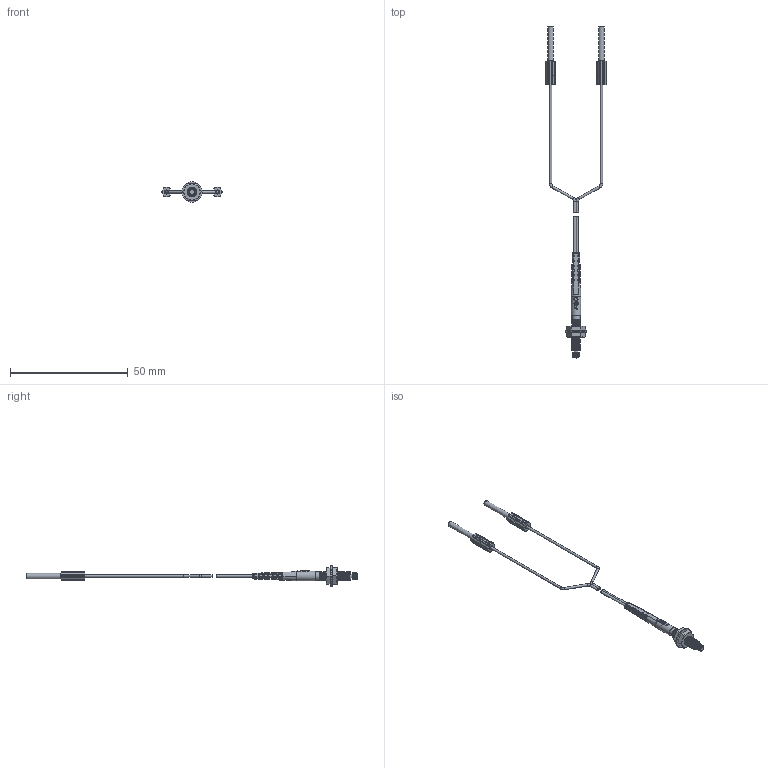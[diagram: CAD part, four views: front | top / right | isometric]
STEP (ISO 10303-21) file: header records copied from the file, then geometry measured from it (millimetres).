
FILE_DESCRIPTION(/* description */ (''),/* implementation_level */ '2;1');
FILE_NAME(/* name */ 'FFRE-410',/* time_stamp */ '2020-06-24T08:29:49+08:00',/* author */ (''),/* organization */ (''),/* preprocessor_version */ 'ST-DEVELOPER v9',/* originating_system */ 'UGS - NX 4.0',/* authorisation */ '');
FILE_SCHEMA (('CONFIG_CONTROL_DESIGN'));
Products named in the file (1): FFRE-410
Bounding box: 25.94 x 141 x 8.8 mm (x, y, z)
Volume: 819.8 mm3; surface area: 3060.8 mm2
Topology: 13 solids, 14 shells, 582 faces, 1701 edges, 1146 vertices
Faces by surface type: plane 326, cylinder 163, bspline 31, cone 29, extrusion 25, torus 8
Full cylindrical faces by diameter (mm): 1 x8, 1.1 x4, 2.1 x1, 2.5 x18, 2.9 x1, 3 x4, 3.4 x1, 4 x1, 8.8 x2
Entity records: 40780 total; most frequent: CARTESIAN_POINT 26618, ORIENTED_EDGE 3132, DIRECTION 2498, EDGE_CURVE 1566, VERTEX_POINT 1075, VECTOR 862, LINE 837, AXIS2_PLACEMENT_3D 818
